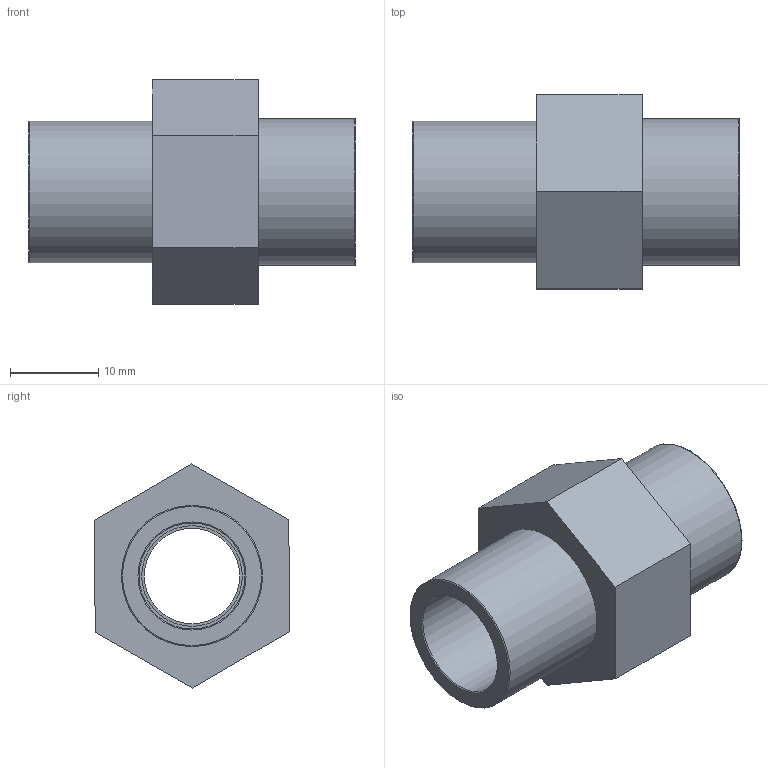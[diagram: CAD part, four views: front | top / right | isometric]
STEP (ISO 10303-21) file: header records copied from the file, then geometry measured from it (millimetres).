
FILE_DESCRIPTION(/* description */ ('PLASSON NIPPLE THR-CEM PVC 16(12)3/8"'),/* implementation_level */ '2;1');
FILE_NAME(/* name */ 'C:\Dropbox\KIMPROJECTS-Inventor\99-16-3568-Processing\PVC Catalog 2017\26_09_18\050602\050602016003.ipt.stp',/* time_stamp */ '2018-09-27T11:49:58+03:00',/* author */ ('KIM'),/* organization */ (''),/* preprocessor_version */ 'ST-DEVELOPER v15.6',/* originating_system */ 'Autodesk Inventor 2015',/* authorisation */ '');
FILE_SCHEMA (('AUTOMOTIVE_DESIGN { 1 0 10303 214 3 1 1 }'));
Length unit declared in the file: millimetre
Products named in the file (1): 050602016003
Bounding box: 37 x 22.04 x 25.4 mm (x, y, z)
Volume: 6471.9 mm3; surface area: 4163 mm2
Topology: 1 solids, 1 shells, 21 faces, 41 edges, 26 vertices
Faces by surface type: plane 12, cylinder 5, torus 4
Full cylindrical faces by diameter (mm): 10.8 x1, 11.4 x1, 12 x1, 16 x1, 16.662 x1
Entity records: 520 total; most frequent: DIRECTION 90, CARTESIAN_POINT 80, ORIENTED_EDGE 64, EDGE_LOOP 36, AXIS2_PLACEMENT_3D 36, EDGE_CURVE 32, VERTEX_POINT 26, FACE_OUTER_BOUND 21
